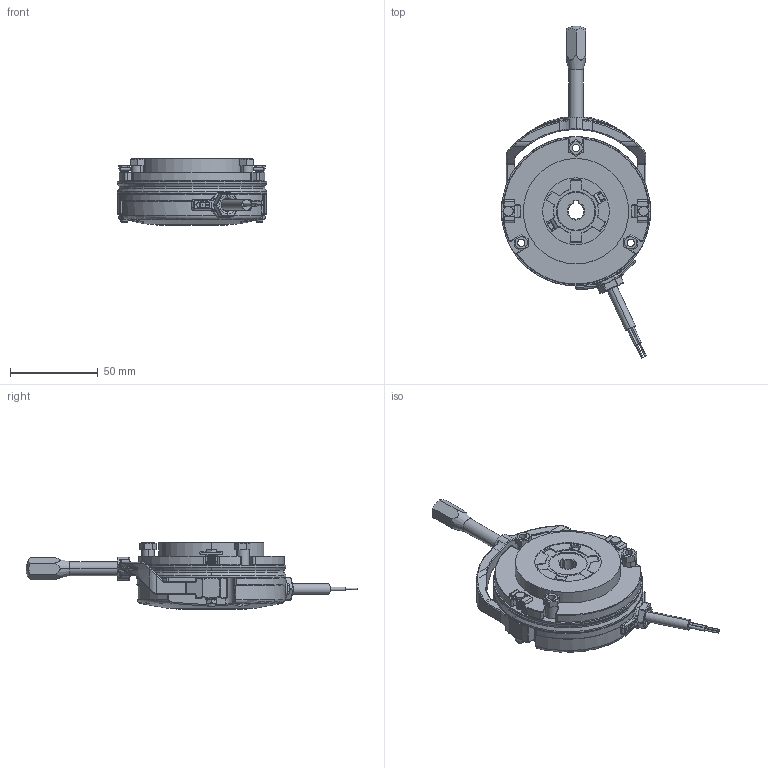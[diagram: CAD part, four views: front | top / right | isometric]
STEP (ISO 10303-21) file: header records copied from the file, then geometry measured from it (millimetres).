
FILE_DESCRIPTION (( 'STEP AP214' ), '1' );
FILE_NAME ('0238 mit HL.STEP', '2025-03-26T07:06:40', ( '' ), ( '' ), 'SwSTEP 2.0', 'SolidWorks 2022', '' );
FILE_SCHEMA (( 'AUTOMOTIVE_DESIGN' ));
Length unit declared in the file: millimetre
Products named in the file (7): 10068353_000; 10068347_000; 10068345_000; 10068349_000; 10068346_000; 0238 mit HL; 10068348_000
Assembly tree (8 placements, depth 2):
  0238 mit HL
    10068349_000
    10068346_000
    10068345_000  x3
    10068347_000
    10068348_000
    10068353_000
Bounding box: 85 x 189.07 x 37.7 mm (x, y, z)
Volume: 173717.1 mm3; surface area: 55443.8 mm2
Topology: 20 solids, 20 shells, 1393 faces, 3419 edges, 2047 vertices
Faces by surface type: cylinder 484, plane 383, bspline 256, torus 109, cone 106, sphere 55
Entity records: 60453 total; most frequent: CARTESIAN_POINT 20410, ORIENTED_EDGE 6522, DIRECTION 5922, EDGE_CURVE 3261, AXIS2_PLACEMENT_3D 2342, VERTEX_POINT 1971, EDGE_LOOP 1412, FACE_OUTER_BOUND 1347
